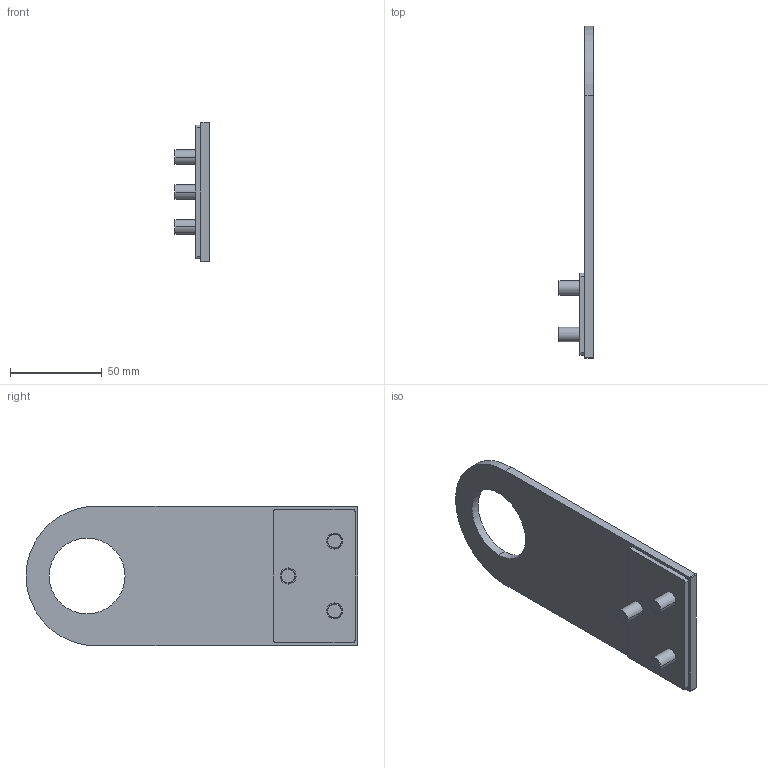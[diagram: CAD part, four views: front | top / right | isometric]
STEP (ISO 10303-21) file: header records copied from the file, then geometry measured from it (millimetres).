
FILE_DESCRIPTION((''),'2;1');
FILE_NAME('SCE-LLB7_ASM','2013-08-13T',('dougp'),('SAGINAW CONTROL & ENGINEERING'),'PRO/ENGINEER BY PARAMETRIC TECHNOLOGY CORPORATION, 2012070','PRO/ENGINEER BY PARAMETRIC TECHNOLOGY CORPORATION, 2012070','');
FILE_SCHEMA(('AUTOMOTIVE_DESIGN { 1 0 10303 214 1 1 1 1 }'));
Length unit declared in the file: inch
Products named in the file (4): SCE-LLB7; 100070; SCE-LLB7-SHIM; SCE-LLB7_ASM
Assembly tree (5 placements, depth 2):
  SCE-LLB7_ASM
    SCE-LLB7
    100070  x3
    SCE-LLB7-SHIM
Bounding box: 19.05 x 180.97 x 76.2 mm (x, y, z)
Volume: 66413.2 mm3; surface area: 35447.9 mm2
Topology: 5 solids, 5 shells, 61 faces, 138 edges, 90 vertices
Faces by surface type: cylinder 35, plane 20, cone 6
Entity records: 1652 total; most frequent: DIRECTION 266, CARTESIAN_POINT 240, ORIENTED_EDGE 212, AXIS2_PLACEMENT_3D 108, EDGE_CURVE 106, VERTEX_POINT 70, EDGE_LOOP 60, CIRCLE 56
